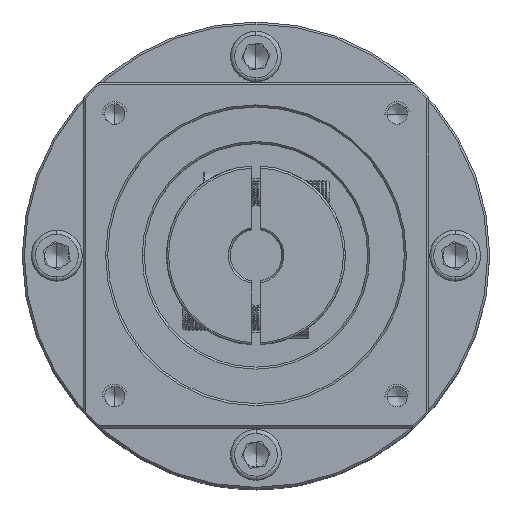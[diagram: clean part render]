
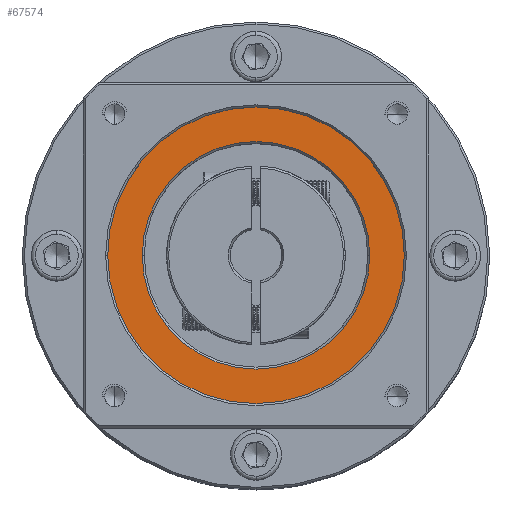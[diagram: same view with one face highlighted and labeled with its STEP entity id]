
A CAD part, top view. The second image highlights one B-rep face of the part: STEP entity #67574.
In plain terms, the highlighted planar face has unit normal (0, 0, 1).
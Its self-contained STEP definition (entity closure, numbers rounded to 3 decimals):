
#11312 = CARTESIAN_POINT ( 'NONE',  ( 6.642, 18.258, 111.411 ) ) ;
#13085 = DIRECTION ( 'NONE',  ( 0., 0., 1. ) ) ;
#20035 = VERTEX_POINT ( 'NONE', #90654 ) ;
#20304 = VERTEX_POINT ( 'NONE', #97577 ) ;
#23675 = FACE_BOUND ( 'NONE', #80927, .T. ) ;
#26927 = DIRECTION ( 'NONE',  ( 0., 0., 1. ) ) ;
#28721 = DIRECTION ( 'NONE',  ( 1., 0., 0. ) ) ;
#31119 = ORIENTED_EDGE ( 'NONE', *, *, #31302, .T. ) ;
#31302 = EDGE_CURVE ( 'NONE', #48129, #20035, #68918, .T. ) ;
#38893 = FACE_OUTER_BOUND ( 'NONE', #48439, .T. ) ;
#42014 = EDGE_CURVE ( 'NONE', #20304, #106088, #106007, .T. ) ;
#48129 = VERTEX_POINT ( 'NONE', #92530 ) ;
#48439 = EDGE_LOOP ( 'NONE', ( #31119, #56137 ) ) ;
#54016 = CIRCLE ( 'NONE', #110445, 28. ) ;
#56137 = ORIENTED_EDGE ( 'NONE', *, *, #71373, .T. ) ;
#67574 = ADVANCED_FACE ( 'NONE', ( #38893, #23675 ), #93801, .T. ) ;
#68918 = CIRCLE ( 'NONE', #109968, 36.5 ) ;
#70213 = DIRECTION ( 'NONE',  ( 1., 0., 0. ) ) ;
#71373 = EDGE_CURVE ( 'NONE', #20035, #48129, #80023, .T. ) ;
#76504 = CARTESIAN_POINT ( 'NONE',  ( 6.642, 18.258, 111.411 ) ) ;
#80023 = CIRCLE ( 'NONE', #92788, 36.5 ) ;
#80927 = EDGE_LOOP ( 'NONE', ( #103419, #83309 ) ) ;
#83309 = ORIENTED_EDGE ( 'NONE', *, *, #42014, .T. ) ;
#88737 = DIRECTION ( 'NONE',  ( 0., 0., -1. ) ) ;
#90654 = CARTESIAN_POINT ( 'NONE',  ( -29.858, 18.258, 111.411 ) ) ;
#92530 = CARTESIAN_POINT ( 'NONE',  ( 43.142, 18.258, 111.411 ) ) ;
#92788 = AXIS2_PLACEMENT_3D ( 'NONE', #124022, #95238, #105415 ) ;
#93131 = CARTESIAN_POINT ( 'NONE',  ( 34.642, 18.258, 111.411 ) ) ;
#93801 = PLANE ( 'NONE',  #105633 ) ;
#94209 = DIRECTION ( 'NONE',  ( 1., 0., 0. ) ) ;
#95238 = DIRECTION ( 'NONE',  ( 0., 0., 1. ) ) ;
#97577 = CARTESIAN_POINT ( 'NONE',  ( -21.358, 18.258, 111.411 ) ) ;
#103419 = ORIENTED_EDGE ( 'NONE', *, *, #123930, .T. ) ;
#103942 = CARTESIAN_POINT ( 'NONE',  ( 6.642, 18.258, 111.411 ) ) ;
#105415 = DIRECTION ( 'NONE',  ( 1., 0., 0. ) ) ;
#105633 = AXIS2_PLACEMENT_3D ( 'NONE', #103942, #26927, #94209 ) ;
#106007 = CIRCLE ( 'NONE', #109337, 28. ) ;
#106088 = VERTEX_POINT ( 'NONE', #93131 ) ;
#108275 = DIRECTION ( 'NONE',  ( 1., 0., 0. ) ) ;
#109337 = AXIS2_PLACEMENT_3D ( 'NONE', #11312, #88737, #108275 ) ;
#109968 = AXIS2_PLACEMENT_3D ( 'NONE', #119338, #13085, #70213 ) ;
#110445 = AXIS2_PLACEMENT_3D ( 'NONE', #76504, #115040, #28721 ) ;
#115040 = DIRECTION ( 'NONE',  ( 0., 0., -1. ) ) ;
#119338 = CARTESIAN_POINT ( 'NONE',  ( 6.642, 18.258, 111.411 ) ) ;
#123930 = EDGE_CURVE ( 'NONE', #106088, #20304, #54016, .T. ) ;
#124022 = CARTESIAN_POINT ( 'NONE',  ( 6.642, 18.258, 111.411 ) ) ;
